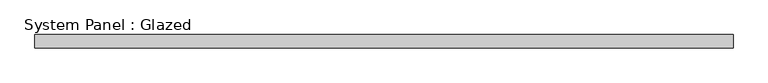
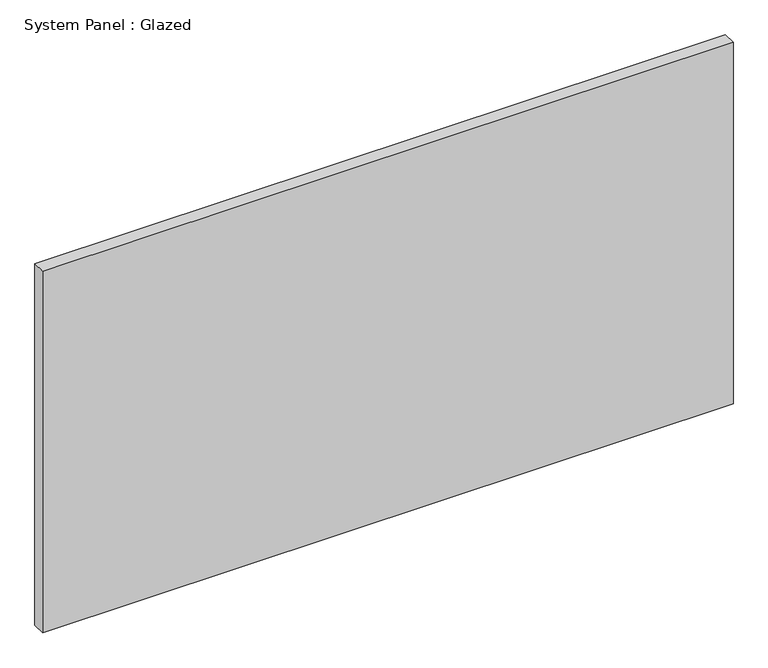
"""IFC4 building model written with IfcOpenShell, lengths in millimetres: plate geometry, System Panel : Glazed."""

from ifc_helpers import new_model, si_unit, origin, origin_with_axes, place, context, project, spatial, polyline, outline, extrude, source, transform, mapped, element, save


def system_panel_glazed_5da71be6(model_context):
    return source(origin(), model_context, "Body", "SweptSolid", [
        extrude(outline(polyline([(655.0000001, 24.5), (-655.0000001, 24.5), (-655.0000001, 49.5), (655.0000001, 49.5), (655.0000001, 24.5)])), origin_with_axes(), (0.0, 0.0, 1.0), 725.0),
    ])


if __name__ == "__main__":
    model = new_model("IFC4")
    model_context = context("Model", 3, world=origin())
    ifc_project = project(units=[si_unit("LENGTHUNIT", "METRE", prefix="MILLI")], contexts=[model_context])
    site = spatial("IfcSite", under=ifc_project)
    building = spatial("IfcBuilding", under=site)
    placement = place(None, origin())
    system_panel_glazed_shape = system_panel_glazed_5da71be6(model_context)
    element("IfcPlate", 1, ObjectType="System Panel : Glazed", at=placement, inside=building, context=model_context, shape_type="MappedRepresentation", body=[
        mapped(system_panel_glazed_shape, transform((0.0, 0.0, 0.0), x_axis=(1.0, 0.0, 0.0), y_axis=(0.0, 1.0, 0.0), z_axis=(0.0, 0.0, 1.0))),
    ])
    save(model, "model.ifc")
